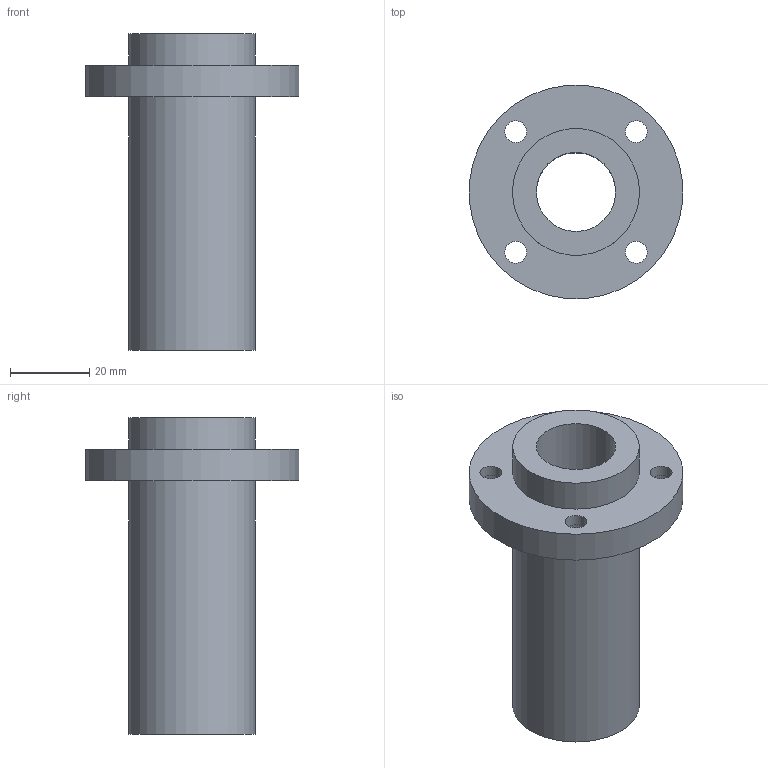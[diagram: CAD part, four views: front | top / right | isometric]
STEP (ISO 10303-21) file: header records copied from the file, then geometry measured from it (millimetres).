
FILE_DESCRIPTION(/* description */ (''),/* implementation_level */ '2;1');
FILE_NAME(/* name */ 'LMFP20LUU',/* time_stamp */ '2019-07-03T13:00:46+02:00',/* author */ ('VĂ©gh MĂˇtĂ©'),/* organization */ ('Bearing Kft'),/* preprocessor_version */ 'ST-DEVELOPER v16.7',/* originating_system */ 'DEX',/* authorisation */ $);
FILE_SCHEMA (('AUTOMOTIVE_DESIGN {1 0 10303 214 3 1 1}'));
Length unit declared in the file: millimetre
Products named in the file (1): LMFP20LUU
Bounding box: 53.79 x 53.79 x 80 mm (x, y, z)
Volume: 49517 mm3; surface area: 18187.5 mm2
Topology: 1 solids, 1 shells, 332 faces, 829 edges, 554 vertices
Faces by surface type: plane 257, bspline 61, cylinder 14
Full cylindrical faces by diameter (mm): 5.5 x4, 9 x4, 20 x1, 32 x2, 54 x1
Entity records: 12876 total; most frequent: CARTESIAN_POINT 5344, ORIENTED_EDGE 1620, DIRECTION 1260, EDGE_CURVE 810, LINE 660, VECTOR 660, VERTEX_POINT 550, EDGE_LOOP 412
